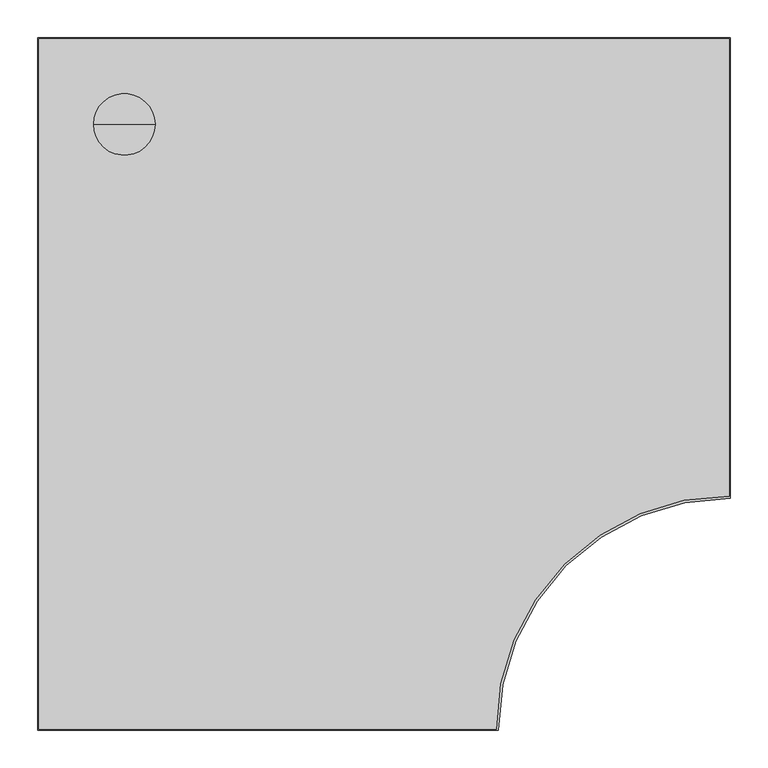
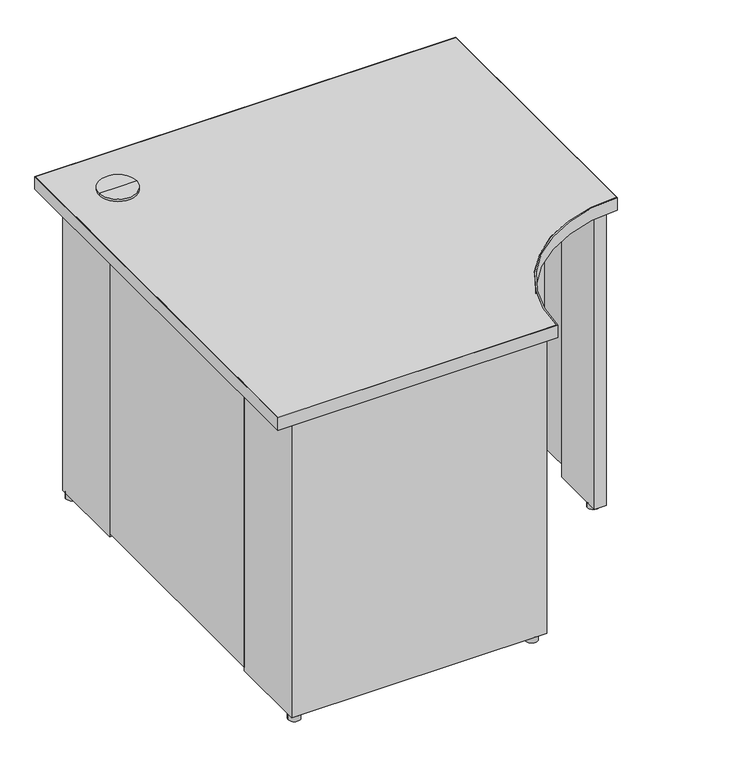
"""IFC4 building model written with IfcOpenShell, lengths in millimetres: furniture geometry, Steelcase - Kick Freestanding - Desk - Curve Corner - Full Height Modesty Panel : 24D x 36W - Two Full Panel - LPL."""

import ifcopenshell
import ifcopenshell.guid

model = None  # the IFC model being written
_history = None  # IfcOwnerHistory: only IFC2X3 demands one
_inside = {}  # id of a spatial element -> (the spatial element, [elements in it])
_under = {}  # id of a project, library or spatial element -> (it, [spatial elements below it])
_declared = {}  # id of a project -> (the project, [libraries it declares])
_typed = {}  # id of a type object -> (the type object, [elements of that type])
_made_of = {}  # id of a material, layer set ... -> (it, [elements and type objects made of it])


def new_model(schema):
    """Start an empty IFC model of exactly this schema.

    Asked for "IFC4X3", IfcOpenShell would pick the latest addendum, in which some entities
    have other attributes; the version numbers below select the first issue.
    IFC2X3 requires an IfcOwnerHistory on every rooted entity: one is made here for all.
    """
    global model, _history
    if schema == "IFC4X3":
        model = ifcopenshell.file(schema_version=(4, 3, 0, 0))
    else:
        model = ifcopenshell.file(schema=schema)
    _inside.clear()
    _under.clear()
    _declared.clear()
    _typed.clear()
    _made_of.clear()
    _history = None
    if model.schema == "IFC2X3":
        org = make("IfcOrganization", Name="unknown")
        user = make(
            "IfcPersonAndOrganization",
            ThePerson=make("IfcPerson", FamilyName="unknown"),
            TheOrganization=org,
        )
        app = make(
            "IfcApplication",
            ApplicationDeveloper=org,
            Version="unknown",
            ApplicationFullName="unknown",
            ApplicationIdentifier="unknown",
        )
        _history = make(
            "IfcOwnerHistory",
            OwningUser=user,
            OwningApplication=app,
            ChangeAction="ADDED",
            CreationDate=0,
        )
    return model


def make(cls, **values):
    """One entity of the class cls with the attributes given. An attribute that is None is left unset."""
    return model.create_entity(
        cls, **{name: value for name, value in values.items() if value is not None}
    )


def rooted(cls, **values):
    """An entity with a GlobalId (a new one), such as an element, a storey or a relation."""
    return make(cls, GlobalId=ifcopenshell.guid.new(), OwnerHistory=_history, **values)


def si_unit(unit_type, name, prefix=None):
    """IfcSIUnit, for example si_unit("LENGTHUNIT", "METRE", prefix="MILLI")."""
    return make("IfcSIUnit", UnitType=unit_type, Prefix=prefix, Name=name)


def assignment(units):
    """IfcUnitAssignment: the units of a project."""
    return None if units is None else make("IfcUnitAssignment", Units=units)


def point(xyz):
    """IfcCartesianPoint."""
    return None if xyz is None else make("IfcCartesianPoint", Coordinates=xyz)


def direction(xyz):
    """IfcDirection."""
    return None if xyz is None else make("IfcDirection", DirectionRatios=xyz)


def frame(location, z_axis=None, x_axis=None):
    """IfcAxis2Placement3D, a coordinate frame: its origin and axes. An axis left out is left unset."""
    return make(
        "IfcAxis2Placement3D",
        Location=point(location),
        Axis=direction(z_axis),
        RefDirection=direction(x_axis),
    )


def frame_2d(location, x_axis=None):
    """IfcAxis2Placement2D, a coordinate frame in the plane: its origin and x axis."""
    return make(
        "IfcAxis2Placement2D", Location=point(location), RefDirection=direction(x_axis)
    )


def origin():
    """The frame at (0, 0, 0) with its axes left unset."""
    return frame((0.0, 0.0, 0.0))


def origin_with_axes():
    """The frame at (0, 0, 0) with the z axis (0, 0, 1) and the x axis (1, 0, 0) written out."""
    return frame((0.0, 0.0, 0.0), z_axis=(0.0, 0.0, 1.0), x_axis=(1.0, 0.0, 0.0))


def place(relative_to, where):
    """IfcLocalPlacement: puts the frame where relative to a parent placement (None: the world)."""
    return make(
        "IfcLocalPlacement", PlacementRelTo=relative_to, RelativePlacement=where
    )


def context(
    kind, dimensions, precision=None, world=None, true_north=None, identifier=None
):
    """IfcGeometricRepresentationContext, for example the 3D "Model" context."""
    return make(
        "IfcGeometricRepresentationContext",
        ContextIdentifier=identifier,
        ContextType=kind,
        CoordinateSpaceDimension=dimensions,
        Precision=precision,
        WorldCoordinateSystem=world,
        TrueNorth=true_north,
    )


def project(units=None, contexts=None):
    """IfcProject with its units and contexts."""
    return rooted(
        "IfcProject",
        Name="project",
        RepresentationContexts=contexts,
        UnitsInContext=assignment(units),
    )


def spatial(cls, under=None, at=None, **own):
    """A site, building, storey or space (cls), placed at a placement, below another one or the project."""
    s = rooted(cls, ObjectPlacement=at, **own)
    if under is not None:
        _under.setdefault(under.id(), (under, []))[1].append(s)
    return s


def polyline(points):
    """IfcPolyline through the points."""
    return make("IfcPolyline", Points=[point(p) for p in points])


def circle_curve(where, radius):
    """IfcCircle in the frame where."""
    return make("IfcCircle", Position=where, Radius=radius)


def trimmed(basis, trim1, trim2, sense, master):
    """IfcTrimmedCurve: the piece of a basis curve between two trims."""
    return make(
        "IfcTrimmedCurve",
        BasisCurve=basis,
        Trim1=trim1,
        Trim2=trim2,
        SenseAgreement=sense,
        MasterRepresentation=master,
    )


def segment(curve, same_sense, transition):
    """IfcCompositeCurveSegment."""
    return make(
        "IfcCompositeCurveSegment",
        Transition=transition,
        SameSense=same_sense,
        ParentCurve=curve,
    )


def composite_curve(segments, self_intersect=None):
    """IfcCompositeCurve: segments joined end to end."""
    return make("IfcCompositeCurve", Segments=segments, SelfIntersect=self_intersect)


def outline(outer, holes=None, kind="AREA"):
    """IfcArbitraryClosedProfileDef: a profile drawn as a closed curve; with holes, ...WithVoids."""
    if holes is None:
        return make("IfcArbitraryClosedProfileDef", ProfileType=kind, OuterCurve=outer)
    return make(
        "IfcArbitraryProfileDefWithVoids",
        ProfileType=kind,
        OuterCurve=outer,
        InnerCurves=holes,
    )


def extrude(swept, where, along, depth):
    """IfcExtrudedAreaSolid: the profile swept, set in the frame where, extruded along a direction by depth."""
    return make(
        "IfcExtrudedAreaSolid",
        SweptArea=swept,
        Position=where,
        ExtrudedDirection=direction(along),
        Depth=depth,
    )


def shape(context_of_items, identifier, shape_type, items):
    """IfcShapeRepresentation: the items that make up one representation, for example the "Body"."""
    return make(
        "IfcShapeRepresentation",
        ContextOfItems=context_of_items,
        RepresentationIdentifier=identifier,
        RepresentationType=shape_type,
        Items=items,
    )


def source(mapping_origin, context_of_items, identifier, shape_type, items):
    """IfcRepresentationMap: a shape defined once, which mapped items show again and again."""
    return make(
        "IfcRepresentationMap",
        MappingOrigin=mapping_origin,
        MappedRepresentation=shape(context_of_items, identifier, shape_type, items),
    )


def transform(
    local_origin,
    x_axis=None,
    y_axis=None,
    z_axis=None,
    scale=None,
    scale2=None,
    scale3=None,
    uniform=True,
):
    """IfcCartesianTransformationOperator3D, or its non-uniform kind. x_axis, y_axis, z_axis: its Axis1, 2, 3."""
    if uniform:
        return make(
            "IfcCartesianTransformationOperator3D",
            Axis1=direction(x_axis),
            Axis2=direction(y_axis),
            LocalOrigin=point(local_origin),
            Scale=scale,
            Axis3=direction(z_axis),
        )
    return make(
        "IfcCartesianTransformationOperator3DnonUniform",
        Axis1=direction(x_axis),
        Axis2=direction(y_axis),
        LocalOrigin=point(local_origin),
        Scale=scale,
        Axis3=direction(z_axis),
        Scale2=scale2,
        Scale3=scale3,
    )


def mapped(mapping_source, mapping_target):
    """IfcMappedItem: shows the shape of a source again, moved by a transform."""
    return make(
        "IfcMappedItem", MappingSource=mapping_source, MappingTarget=mapping_target
    )


def made_of(thing, what):
    """Note that an element or type object is made of a material, layer set ...; save() writes the relation."""
    if what is not None:
        _made_of.setdefault(what.id(), (what, []))[1].append(thing)
    return thing


def element(
    cls,
    number,
    at=None,
    inside=None,
    cuts=None,
    type_object=None,
    material=None,
    context=None,
    identifier="Body",
    shape_type=None,
    held_by="IfcProductDefinitionShape",
    body=None,
    shapes=None,
    **own,
):
    """One element of the class cls, such as IfcWall. Its Tag is "e" and its number.

    at: its placement. inside: the storey or other place that contains it. cuts: it is an
    opening in that element (IfcRelVoidsElement). A single representation is given by context,
    identifier, shape_type and body (its items); several are given by shapes. held_by: the class
    of the entity that holds the representations. save() writes the other relations.
    """
    e = rooted(cls, Tag="e%d" % number, ObjectPlacement=at, **own)
    if body is not None:
        shapes = [shape(context, identifier, shape_type, body)]
    if shapes is not None:
        e.Representation = make(held_by, Representations=shapes)
    if inside is not None:
        _inside.setdefault(inside.id(), (inside, []))[1].append(e)
    if cuts is not None:
        rooted(
            "IfcRelVoidsElement", RelatingBuildingElement=cuts, RelatedOpeningElement=e
        )
    if type_object is not None:
        _typed.setdefault(type_object.id(), (type_object, []))[1].append(e)
    return made_of(e, material)


def aggregate(whole, parts):
    """IfcRelAggregates: a whole, such as a stair, and the parts it consists of."""
    return rooted("IfcRelAggregates", RelatingObject=whole, RelatedObjects=parts)


def save(model, path):
    """Write the relations noted so far, then the file.

    IfcRelAggregates (storeys below a building ...), IfcRelContainedInSpatialStructure (elements
    in a storey), IfcRelDefinesByType, IfcRelAssociatesMaterial and IfcRelDeclares: one each for
    every whole, place, type object, material and project.
    """
    for whole, parts in _under.values():
        aggregate(whole, parts)
    for where, things in _inside.values():
        rooted(
            "IfcRelContainedInSpatialStructure",
            RelatedElements=things,
            RelatingStructure=where,
        )
    for kind, things in _typed.values():
        rooted("IfcRelDefinesByType", RelatedObjects=things, RelatingType=kind)
    for what, things in _made_of.values():
        rooted("IfcRelAssociatesMaterial", RelatedObjects=things, RelatingMaterial=what)
    for by, libraries in _declared.values():
        rooted("IfcRelDeclares", RelatingContext=by, RelatedDefinitions=libraries)
    model.write(path)


def plane_surface(at):
    """IfcPlane: the flat surface through the origin of the frame at, square to its z axis."""
    return make("IfcPlane", Position=at)


def cylinder_surface(at, radius):
    """IfcCylindricalSurface: all points at the distance radius from the z axis of the frame at."""
    return make("IfcCylindricalSurface", Position=at, Radius=radius)


def advanced_brep(points, edges, surfaces, faces):
    """IfcAdvancedBrep: a solid bounded by faces that lie on surfaces and meet in shared edges.

    An edge is (start, end): straight between two places in points (the first is 0);
    or (start, end, curve); or (start, end, curve, False) where it runs against its curve.
    A face is (place in surfaces, loops), or (place, loops, False) where it looks against
    its surface's normal. A loop lists edges by number (the first is 1), with a minus sign
    where the edge is run from its end to its start. The first loop is the outer one.
    """
    corners = [point(p) for p in points]
    vertices = [make("IfcVertexPoint", VertexGeometry=c) for c in corners]
    made = []
    for start, end, *more in edges:
        made.append(
            make(
                "IfcEdgeCurve",
                EdgeStart=vertices[start],
                EdgeEnd=vertices[end],
                EdgeGeometry=more[0] if more else make("IfcPolyline", Points=[corners[start], corners[end]]),
                SameSense=more[1] if len(more) > 1 else True,
            )
        )
    hull = []
    for where, loops, *sense in faces:
        bounds = []
        for j, loop in enumerate(loops):
            ring = [make("IfcOrientedEdge", EdgeElement=made[abs(k) - 1], Orientation=k > 0) for k in loop]
            bounds.append(
                make(
                    "IfcFaceOuterBound" if j == 0 else "IfcFaceBound",
                    Bound=make("IfcEdgeLoop", EdgeList=ring),
                    Orientation=True,
                )
            )
        hull.append(make("IfcAdvancedFace", Bounds=bounds, FaceSurface=surfaces[where], SameSense=sense[0] if sense else True))
    return make("IfcAdvancedBrep", Outer=make("IfcClosedShell", CfsFaces=hull))


def furniture_920eaa84(model_context):
    return source(origin(), model_context, "Body", "SolidModel", [
        extrude(outline(composite_curve([segment(trimmed(circle_curve(frame_2d((886.4853521, -565.8064761)), 12.7), [point((873.7853521, -565.8064761))], [point((899.1853521, -565.8064761))], False, "CARTESIAN"), True, "CONTINUOUS"), segment(trimmed(circle_curve(frame_2d((886.4853521, -565.8064761)), 12.7), [point((899.1853521, -565.8064761))], [point((873.7853521, -565.8064761))], False, "CARTESIAN"), True, "CONTINUOUS")], self_intersect=False)), origin_with_axes(), (0.0, 0.0, 1.0), 12.446),
        extrude(outline(composite_curve([segment(trimmed(circle_curve(frame_2d((566.7971133, -887.4759893)), 12.7), [point((554.0971133, -887.4759893))], [point((579.4971133, -887.4759893))], False, "CARTESIAN"), True, "CONTINUOUS"), segment(trimmed(circle_curve(frame_2d((566.7971133, -887.4759893)), 12.7), [point((579.4971133, -887.4759893))], [point((554.0971133, -887.4759893))], False, "CARTESIAN"), True, "CONTINUOUS")], self_intersect=False)), origin_with_axes(), (0.0, 0.0, 1.0), 12.446),
        extrude(outline(polyline([(215.8999939, -63.5), (63.5, -63.5), (63.5, -215.8999939), (38.1, -215.8999939), (38.1, -38.1), (215.8999939, -38.1), (215.8999939, -63.5)])), frame((0.0, 0.0, 12.446), z_axis=(0.0, 0.0, 1.0), x_axis=(1.0, 0.0, 0.0)), (0.0, 0.0, 1.0), 682.498),
        extrude(outline(polyline([(63.5, -722.6300194), (63.5, -875.0300194), (161.3662, -875.0300194), (161.3662, -894.6895822), (261.0866, -894.6895822), (261.0866, -875.0300194), (369.824, -875.0300194), (369.824, -894.6895822), (469.5444, -894.6895822), (469.5444, -875.0300194), (592.582, -875.0300194), (592.582, -900.4299952), (38.1, -900.4299952), (38.1, -722.6300194), (63.5, -722.6300194)])), frame((0.0, 0.0, 12.446), z_axis=(0.0, 0.0, 1.0), x_axis=(1.0, 0.0, 0.0)), (0.0, 0.0, 1.0), 682.498),
        extrude(outline(polyline([(721.6393822, -63.5), (721.6393822, -38.1), (899.4393579, -38.1), (899.4393579, -592.582), (873.5313463, -592.582), (873.5313463, -469.5444), (893.698945, -469.5444), (893.698945, -369.824), (873.5313463, -369.824), (873.5313463, -261.0866), (893.698945, -261.0866), (893.698945, -161.3662), (873.5313463, -161.3662), (873.5313463, -63.5), (721.6393822, -63.5)])), frame((0.0, 0.0, 12.446), z_axis=(0.0, 0.0, 1.0), x_axis=(1.0, 0.0, 0.0)), (0.0, 0.0, 1.0), 682.498),
        advanced_brep(
        [(114.3, -114.3, 728.98), (154.94, -114.3, 728.98), (73.66, -114.3, 728.98), (76.1699693, -114.3, 694.944), (152.4300307, -114.3, 694.944), (114.3, -114.3, 694.944), (76.1699693, -114.3, 723.9), (152.4300307, -114.3, 723.9), (73.66, -114.3, 723.9), (154.94, -114.3, 723.9)],
        [
            (0, 1),
            (1, 2, circle_curve(frame((114.3, -114.3, 728.98), z_axis=(0.0, 0.0, 1.0), x_axis=(1.0, 0.0, 0.0)), 40.64)),
            (2, 0),
            (2, 1, circle_curve(frame((114.3, -114.3, 728.98), z_axis=(0.0, 0.0, 1.0), x_axis=(1.0, 0.0, 0.0)), 40.64)),
            (3, 4, circle_curve(frame((114.3, -114.3, 694.944), z_axis=(0.0, 0.0, -1.0), x_axis=(1.0, 0.0, 0.0)), 38.1300307)),
            (4, 5),
            (5, 3),
            (4, 3, circle_curve(frame((114.3, -114.3, 694.944), z_axis=(0.0, 0.0, -1.0), x_axis=(1.0, 0.0, 0.0)), 38.1300307)),
            (6, 7, circle_curve(frame((114.3, -114.3, 723.9), z_axis=(0.0, 0.0, -1.0), x_axis=(1.0, 0.0, 0.0)), 38.1300307)),
            (7, 4),
            (3, 6),
            (7, 6, circle_curve(frame((114.3, -114.3, 723.9), z_axis=(0.0, 0.0, -1.0), x_axis=(1.0, 0.0, 0.0)), 38.1300307)),
            (8, 9, circle_curve(frame((114.3, -114.3, 723.9), z_axis=(0.0, 0.0, -1.0), x_axis=(1.0, 0.0, 0.0)), 40.64)),
            (9, 7),
            (6, 8),
            (9, 8, circle_curve(frame((114.3, -114.3, 723.9), z_axis=(0.0, 0.0, -1.0), x_axis=(1.0, 0.0, 0.0)), 40.64)),
            (1, 9),
            (8, 2),
        ],
        [
            plane_surface(frame((114.3, -114.3, 728.98), z_axis=(0.0, 0.0, 1.0), x_axis=(1.0, 0.0, 0.0))),
            plane_surface(frame((114.3, -114.3, 694.944), z_axis=(0.0, 0.0, -1.0), x_axis=(1.0, 0.0, 0.0))),
            cylinder_surface(frame((114.3, -114.3, 728.98), z_axis=(0.0, 0.0, 1.0), x_axis=(1.0, 0.0, 0.0)), 38.1300307),
            plane_surface(frame((114.3, -114.3, 723.9), z_axis=(0.0, 0.0, -1.0), x_axis=(1.0, 0.0, 0.0))),
            cylinder_surface(frame((114.3, -114.3, 728.98), z_axis=(0.0, 0.0, 1.0), x_axis=(1.0, 0.0, 0.0)), 40.64),
        ],
        [
            (0, [[1, 2, 3]]),
            (0, [[-3, 4, -1]]),
            (1, [[5, 6, 7]]),
            (1, [[8, -7, -6]]),
            (2, [[9, 10, -5, 11]]),
            (2, [[12, -11, -8, -10]]),
            (3, [[13, 14, -9, 15]]),
            (3, [[16, -15, -12, -14]]),
            (4, [[-2, 17, -13, 18]]),
            (4, [[-4, -18, -16, -17]]),
        ],
    ),
        extrude(outline(composite_curve([segment(trimmed(circle_curve(frame_2d((50.8, -50.8)), 12.7), [point((38.1, -50.8))], [point((63.5, -50.8))], False, "CARTESIAN"), True, "CONTINUOUS"), segment(trimmed(circle_curve(frame_2d((50.8, -50.8)), 12.7), [point((63.5, -50.8))], [point((38.1, -50.8))], False, "CARTESIAN"), True, "CONTINUOUS")], self_intersect=False)), origin_with_axes(), (0.0, 0.0, 1.0), 12.446),
        extrude(outline(composite_curve([segment(trimmed(circle_curve(frame_2d((50.8, -887.7300073)), 12.7484998), [point((38.0515002, -887.7300073))], [point((63.5484998, -887.7300073))], False, "CARTESIAN"), True, "CONTINUOUS"), segment(trimmed(circle_curve(frame_2d((50.8, -887.7300073)), 12.7484998), [point((63.5484998, -887.7300073))], [point((38.0515002, -887.7300073))], False, "CARTESIAN"), True, "CONTINUOUS")], self_intersect=False)), origin_with_axes(), (0.0, 0.0, 1.0), 12.446),
        extrude(outline(composite_curve([segment(trimmed(circle_curve(frame_2d((886.4853521, -50.8)), 12.7), [point((873.7853521, -50.8))], [point((899.1853521, -50.8))], False, "CARTESIAN"), True, "CONTINUOUS"), segment(trimmed(circle_curve(frame_2d((886.4853521, -50.8)), 12.7), [point((899.1853521, -50.8))], [point((873.7853521, -50.8))], False, "CARTESIAN"), True, "CONTINUOUS")], self_intersect=False)), origin_with_axes(), (0.0, 0.0, 1.0), 12.446),
        extrude(outline(polyline([(63.5, -215.8999939), (63.5, -722.6300194), (38.1, -722.6300194), (38.1, -215.8999939), (63.5, -215.8999939)])), frame((0.0, 0.0, 20.828), z_axis=(0.0, 0.0, 1.0), x_axis=(1.0, 0.0, 0.0)), (0.0, 0.0, 1.0), 674.116),
        extrude(outline(polyline([(721.6393822, -38.1), (721.6393822, -63.5), (215.8999939, -63.5), (215.8999939, -38.1), (721.6393822, -38.1)])), frame((0.0, 0.0, 20.828), z_axis=(0.0, 0.0, 1.0), x_axis=(1.0, 0.0, 0.0)), (0.0, 0.0, 1.0), 674.116),
        extrude(outline(composite_curve([segment(polyline([(0.9906, -913.4093628), (0.9906, -0.9906), (913.4093628, -0.9906), (913.4093628, -605.3354109)]), True, "CONTINUOUS"), segment(trimmed(circle_curve(frame_2d((912.1393458, -912.1393458)), 306.8065636), [point((913.4093628, -605.3354109))], [point((605.3354109, -913.4093628))], True, "CARTESIAN"), True, "CONTINUOUS"), segment(polyline([(605.3354109, -913.4093628), (0.9906, -913.4093628)]), True, "CONTINUOUS")], self_intersect=False)), frame((0.0, 0.0, 694.944), z_axis=(0.0, 0.0, 1.0), x_axis=(1.0, 0.0, 0.0)), (0.0, 0.0, 1.0), 28.956),
        extrude(outline(composite_curve([segment(polyline([(914.4, 0.0), (914.4, -608.332629)]), True, "CONTINUOUS"), segment(trimmed(circle_curve(frame_2d((913.129983, -913.129983)), 304.8), [point((914.4, -608.332629))], [point((608.332629, -914.4))], True, "CARTESIAN"), True, "CONTINUOUS"), segment(polyline([(608.332629, -914.4), (0.0, -914.4), (0.0, 0.0), (914.4, 0.0)]), True, "CONTINUOUS")], self_intersect=False), holes=[composite_curve([segment(polyline([(913.4093628, -0.9906), (0.9906, -0.9906), (0.9906, -913.4093628), (605.3354109, -913.4093628)]), True, "CONTINUOUS"), segment(trimmed(circle_curve(frame_2d((912.1393458, -912.1393458)), 306.8065636), [point((605.3354109, -913.4093628))], [point((913.4093628, -605.3354109))], False, "CARTESIAN"), True, "CONTINUOUS"), segment(polyline([(913.4093628, -605.3354109), (913.4093628, -0.9906)]), True, "CONTINUOUS")], self_intersect=False)]), frame((0.0, 0.0, 694.944), z_axis=(0.0, 0.0, 1.0), x_axis=(1.0, 0.0, 0.0)), (0.0, 0.0, 1.0), 28.956),
    ])


if __name__ == "__main__":
    model = new_model("IFC4")
    model_context = context("Model", 3, world=origin())
    ifc_project = project(units=[si_unit("LENGTHUNIT", "METRE", prefix="MILLI")], contexts=[model_context])
    site = spatial("IfcSite", under=ifc_project)
    building = spatial("IfcBuilding", under=site)
    placement = place(None, origin())
    furniture_shape = furniture_920eaa84(model_context)
    element("IfcFurniture", 1, ObjectType="Steelcase - Kick Freestanding - Desk - Curve Corner - Full Height Modesty Panel : 24D x 36W - Two Full Panel - LPL", at=placement, inside=building, context=model_context, shape_type="MappedRepresentation", body=[
        mapped(furniture_shape, transform((0.0, 0.0, 0.0), x_axis=(1.0, 0.0, 0.0), y_axis=(0.0, 1.0, 0.0), z_axis=(0.0, 0.0, 1.0))),
    ])
    save(model, "model.ifc")
